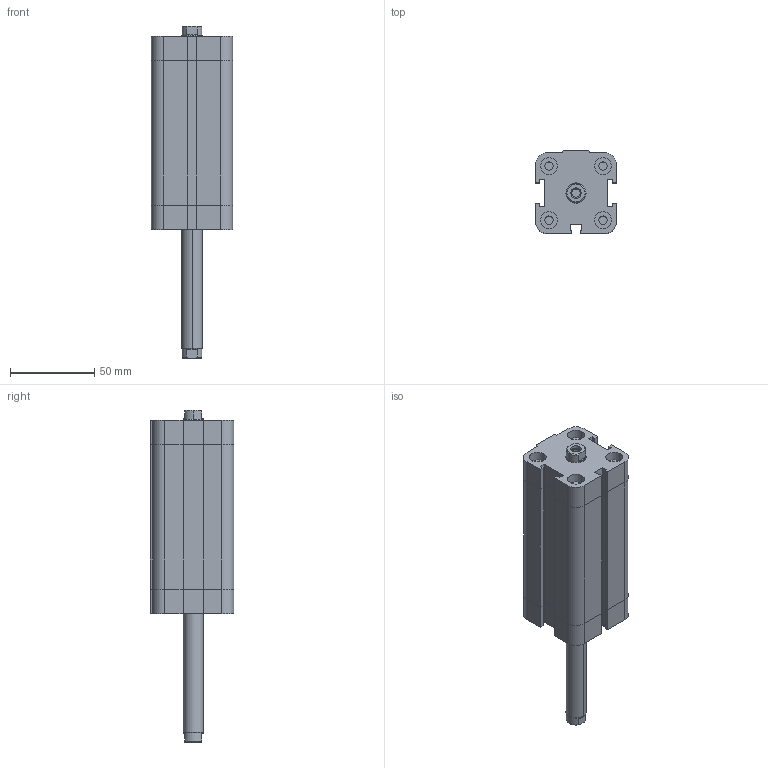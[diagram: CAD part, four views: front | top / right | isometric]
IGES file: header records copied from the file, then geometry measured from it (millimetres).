
Global section: file name: No Iges File Name specified; native system: Autodesk Inventor 2009; preprocessor: AutoDesk Inventor Iges Exporter R2009; author: maffial1; date: 20090420.200533; units: millimetre
Bounding box: 48 x 49.5 x 196.5 mm (x, y, z)
Volume: 242209.4 mm3; surface area: 46493.5 mm2
Topology: 2 solids, 2 shells, 202 faces, 450 edges, 274 vertices
Faces by surface type: plane 114, bspline 42, revolution 20, cylinder 18, cone 8
